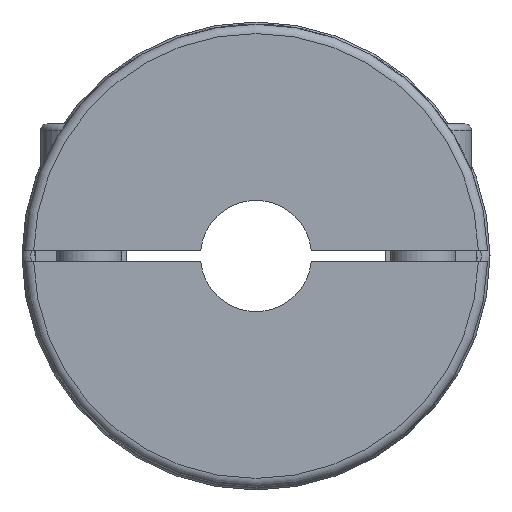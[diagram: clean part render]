
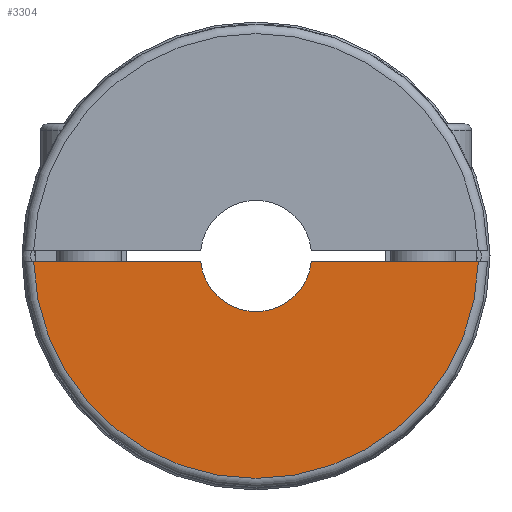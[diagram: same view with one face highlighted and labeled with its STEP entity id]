
A CAD part, left-side view. The second image highlights one B-rep face of the part: STEP entity #3304.
In plain terms, the highlighted planar face has unit normal (-1, 0, 0).
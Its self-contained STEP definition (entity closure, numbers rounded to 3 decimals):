
#96=LINE('',#5352,#240);
#100=LINE('',#5377,#244);
#240=VECTOR('',#4245,1000.);
#244=VECTOR('',#4255,1000.);
#424=PLANE('',#3620);
#761=ORIENTED_EDGE('',*,*,#1475,.T.);
#762=ORIENTED_EDGE('',*,*,#1469,.F.);
#763=ORIENTED_EDGE('',*,*,#1476,.F.);
#764=ORIENTED_EDGE('',*,*,#1477,.F.);
#1469=EDGE_CURVE('',#1843,#1844,#96,.T.);
#1475=EDGE_CURVE('',#1849,#1844,#2137,.T.);
#1476=EDGE_CURVE('',#1850,#1843,#2138,.T.);
#1477=EDGE_CURVE('',#1849,#1850,#100,.T.);
#1843=VERTEX_POINT('',#5353);
#1844=VERTEX_POINT('',#5354);
#1849=VERTEX_POINT('',#5374);
#1850=VERTEX_POINT('',#5376);
#2137=CIRCLE('',#3621,12.);
#2138=CIRCLE('',#3622,48.);
#2398=EDGE_LOOP('',(#761,#762,#763,#764));
#2856=FACE_BOUND('',#2398,.T.);
#3304=ADVANCED_FACE('',(#2856),#424,.F.);
#3620=AXIS2_PLACEMENT_3D('',#5372,#4249,#4250);
#3621=AXIS2_PLACEMENT_3D('',#5373,#4251,#4252);
#3622=AXIS2_PLACEMENT_3D('',#5375,#4253,#4254);
#4245=DIRECTION('',(0.,-1.,0.));
#4249=DIRECTION('',(1.,0.,0.));
#4250=DIRECTION('',(0.,0.,1.));
#4251=DIRECTION('',(1.,0.,0.));
#4252=DIRECTION('',(0.,0.,1.));
#4253=DIRECTION('',(1.,0.,0.));
#4254=DIRECTION('',(0.,0.,1.));
#4255=DIRECTION('',(0.,-1.,0.));
#5352=CARTESIAN_POINT('',(-120.997,0.,-1.2));
#5353=CARTESIAN_POINT('',(-120.997,47.985,-1.2));
#5354=CARTESIAN_POINT('',(-120.997,11.94,-1.2));
#5372=CARTESIAN_POINT('',(-120.997,0.,11.5));
#5373=CARTESIAN_POINT('',(-120.997,0.,0.));
#5374=CARTESIAN_POINT('',(-120.997,-11.94,-1.2));
#5375=CARTESIAN_POINT('',(-120.997,0.,0.));
#5376=CARTESIAN_POINT('',(-120.997,-47.985,-1.2));
#5377=CARTESIAN_POINT('',(-120.997,0.,-1.2));
